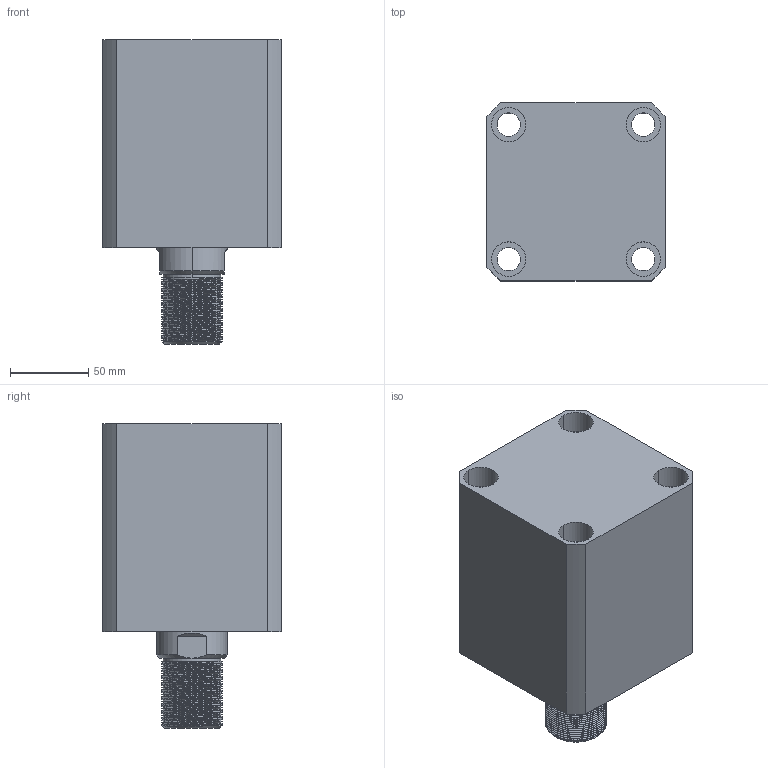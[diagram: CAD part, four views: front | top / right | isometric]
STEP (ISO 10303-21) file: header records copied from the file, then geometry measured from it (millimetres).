
FILE_DESCRIPTION (( 'STEP AP214' ), '1' );
FILE_NAME ('chtb-sdma80x55wasm.STEP', '2018-05-29T02:58:28', ( 'Windows' ), ( 'Microsoft' ), 'SwSTEP 2.0', 'SolidWorks 2015', '' );
FILE_SCHEMA (( 'AUTOMOTIVE_DESIGN' ));
Length unit declared in the file: millimetre
Products named in the file (4): CHTB-SDMA80X55NBT; CHTB-SD80X55WHSG; CHTB-SD80QG; chtb-sdma80x55wasm
Assembly tree (3 placements, depth 2):
  chtb-sdma80x55wasm
    CHTB-SD80QG
    CHTB-SD80X55WHSG
    CHTB-SDMA80X55NBT
Bounding box: 114 x 114 x 195 mm (x, y, z)
Volume: 1458041.8 mm3; surface area: 213468.4 mm2
Topology: 3 solids, 3 shells, 251 faces, 695 edges, 466 vertices
Faces by surface type: cylinder 163, plane 38, torus 18, bspline 16, cone 16
Entity records: 20277 total; most frequent: CARTESIAN_POINT 14301, ORIENTED_EDGE 1382, DIRECTION 1068, EDGE_CURVE 691, VERTEX_POINT 466, AXIS2_PLACEMENT_3D 433, EDGE_LOOP 289, ADVANCED_FACE 251
